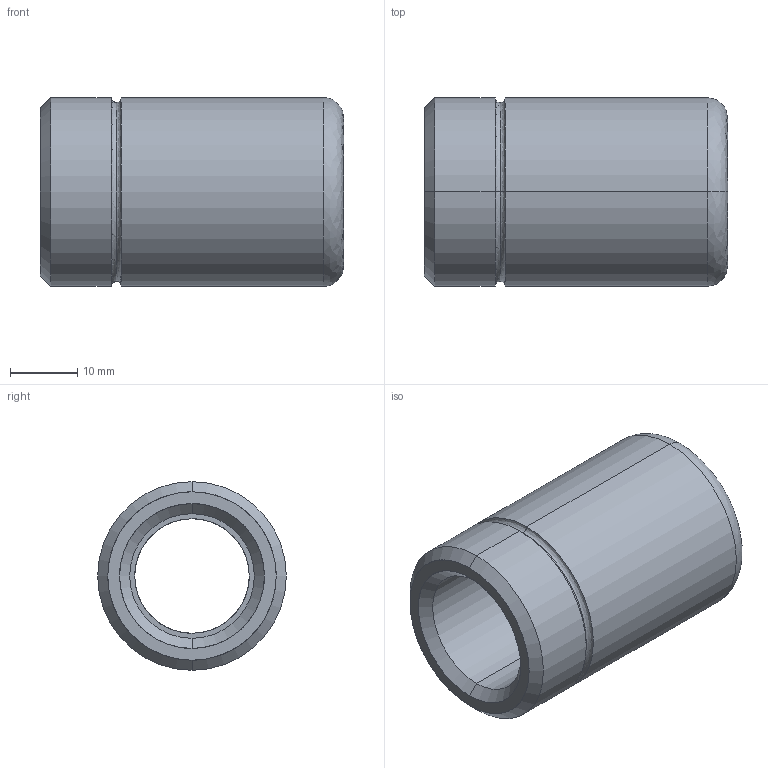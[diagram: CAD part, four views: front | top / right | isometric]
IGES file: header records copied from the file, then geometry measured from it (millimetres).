
Start section: START RECORD GO HERE.
Global section: file name: 347-17 x 45.igs; native system: DASSAULT SYSTEMES CATIA V5 R20 - www.3ds.com; preprocessor: CATIA Version 5 Release 20 ; author: Utente; organization: NB04-ASUS; date: 20210101.110525; units: millimetre
Bounding box: 45 x 28 x 28 mm (x, y, z)
Surface area: 7134.5 mm2 (no closed solid volume)
Topology: 0 solids, 0 shells, 29 faces, 172 edges, 172 vertices
Faces by surface type: revolution 26, plane 3
